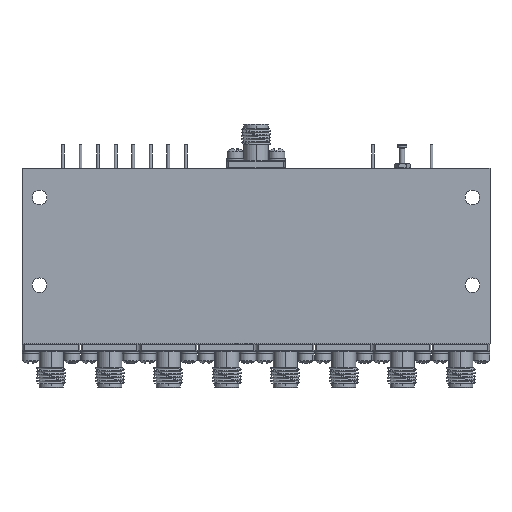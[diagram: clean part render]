
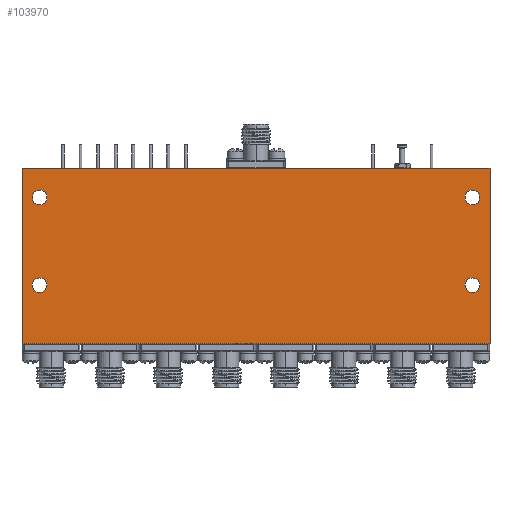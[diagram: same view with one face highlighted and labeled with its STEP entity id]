
A CAD part, front view. The second image highlights one B-rep face of the part: STEP entity #103970.
In plain terms, the highlighted planar face has unit normal (0, -1, 0).
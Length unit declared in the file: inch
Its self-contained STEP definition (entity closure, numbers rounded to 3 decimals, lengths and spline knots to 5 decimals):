
#84 = CARTESIAN_POINT ( 'NONE',  ( 1.85, -0.4, 0.5625 ) ) ;
#2089 = EDGE_LOOP ( 'NONE', ( #83933, #24301 ) ) ;
#2993 = CARTESIAN_POINT ( 'NONE',  ( 1.85, -0.4, 0.5 ) ) ;
#3558 = EDGE_CURVE ( 'NONE', #79604, #22856, #48123, .T. ) ;
#3781 = CARTESIAN_POINT ( 'NONE',  ( 1.85, -0.4, 0.5 ) ) ;
#5916 = CARTESIAN_POINT ( 'NONE',  ( -1.85, -0.4, -0.25 ) ) ;
#5926 = CARTESIAN_POINT ( 'NONE',  ( -2., -0.4, -0.75 ) ) ;
#6903 = EDGE_CURVE ( 'NONE', #90345, #19515, #58654, .T. ) ;
#6947 = VERTEX_POINT ( 'NONE', #38747 ) ;
#10412 = EDGE_CURVE ( 'NONE', #73036, #129658, #29117, .T. ) ;
#10731 = EDGE_LOOP ( 'NONE', ( #43509, #44098, #98233, #60220 ) ) ;
#14600 = CARTESIAN_POINT ( 'NONE',  ( -1.85, -0.4, 0.5 ) ) ;
#14979 = CARTESIAN_POINT ( 'NONE',  ( 1.85, -0.4, -0.25 ) ) ;
#16177 = PLANE ( 'NONE',  #42972 ) ;
#17691 = VERTEX_POINT ( 'NONE', #67533 ) ;
#19515 = VERTEX_POINT ( 'NONE', #74724 ) ;
#21190 = CARTESIAN_POINT ( 'NONE',  ( -1.85, -0.4, 0.5 ) ) ;
#22150 = DIRECTION ( 'NONE',  ( 0., 0., -1. ) ) ;
#22419 = VERTEX_POINT ( 'NONE', #107816 ) ;
#22856 = VERTEX_POINT ( 'NONE', #79773 ) ;
#22982 = AXIS2_PLACEMENT_3D ( 'NONE', #5916, #116943, #96325 ) ;
#24301 = ORIENTED_EDGE ( 'NONE', *, *, #54626, .T. ) ;
#26179 = FACE_BOUND ( 'NONE', #77400, .T. ) ;
#27717 = CARTESIAN_POINT ( 'NONE',  ( -2., -0.4, -0.75 ) ) ;
#27892 = CARTESIAN_POINT ( 'NONE',  ( -2., -0.4, 0.75 ) ) ;
#27914 = AXIS2_PLACEMENT_3D ( 'NONE', #3781, #43112, #82305 ) ;
#29117 = CIRCLE ( 'NONE', #103375, 0.0625 ) ;
#29593 = EDGE_CURVE ( 'NONE', #42709, #54280, #66148, .T. ) ;
#31895 = ORIENTED_EDGE ( 'NONE', *, *, #106462, .T. ) ;
#38747 = CARTESIAN_POINT ( 'NONE',  ( -1.85, -0.4, -0.3125 ) ) ;
#39189 = DIRECTION ( 'NONE',  ( 1., 0., 0. ) ) ;
#39213 = DIRECTION ( 'NONE',  ( 0., 1., 0. ) ) ;
#40738 = DIRECTION ( 'NONE',  ( 0., 0., 1. ) ) ;
#41946 = CIRCLE ( 'NONE', #99136, 0.0625 ) ;
#42709 = VERTEX_POINT ( 'NONE', #81984 ) ;
#42972 = AXIS2_PLACEMENT_3D ( 'NONE', #121830, #101130, #129919 ) ;
#43112 = DIRECTION ( 'NONE',  ( 0., 1., 0. ) ) ;
#43276 = DIRECTION ( 'NONE',  ( 0., 0., 1. ) ) ;
#43509 = ORIENTED_EDGE ( 'NONE', *, *, #6903, .F. ) ;
#44098 = ORIENTED_EDGE ( 'NONE', *, *, #83173, .F. ) ;
#46698 = DIRECTION ( 'NONE',  ( 0., 0., 1. ) ) ;
#47523 = DIRECTION ( 'NONE',  ( 0., 1., 0. ) ) ;
#47654 = DIRECTION ( 'NONE',  ( -1., 0., 0. ) ) ;
#48123 = LINE ( 'NONE', #129296, #83214 ) ;
#49206 = CIRCLE ( 'NONE', #64017, 0.0625 ) ;
#52979 = AXIS2_PLACEMENT_3D ( 'NONE', #2993, #115281, #74146 ) ;
#54183 = AXIS2_PLACEMENT_3D ( 'NONE', #90318, #39213, #77313 ) ;
#54280 = VERTEX_POINT ( 'NONE', #84 ) ;
#54626 = EDGE_CURVE ( 'NONE', #129658, #73036, #49206, .T. ) ;
#55305 = CARTESIAN_POINT ( 'NONE',  ( 1.85, -0.4, -0.25 ) ) ;
#56946 = LINE ( 'NONE', #27717, #63286 ) ;
#58654 = LINE ( 'NONE', #121124, #122458 ) ;
#60220 = ORIENTED_EDGE ( 'NONE', *, *, #71506, .F. ) ;
#61705 = DIRECTION ( 'NONE',  ( 0., 1., 0. ) ) ;
#63137 = DIRECTION ( 'NONE',  ( 0., 1., 0. ) ) ;
#63286 = VECTOR ( 'NONE', #47654, 39.37008 ) ;
#63629 = FACE_BOUND ( 'NONE', #105874, .T. ) ;
#64017 = AXIS2_PLACEMENT_3D ( 'NONE', #21190, #61705, #102196 ) ;
#65774 = VECTOR ( 'NONE', #39189, 39.37008 ) ;
#66148 = CIRCLE ( 'NONE', #27914, 0.0625 ) ;
#67533 = CARTESIAN_POINT ( 'NONE',  ( -1.85, -0.4, -0.1875 ) ) ;
#68584 = CARTESIAN_POINT ( 'NONE',  ( -1.85, -0.4, 0.5625 ) ) ;
#69108 = CIRCLE ( 'NONE', #54183, 0.0625 ) ;
#71506 = EDGE_CURVE ( 'NONE', #19515, #79604, #120255, .T. ) ;
#73036 = VERTEX_POINT ( 'NONE', #68584 ) ;
#74146 = DIRECTION ( 'NONE',  ( 0., 0., 1. ) ) ;
#74224 = CARTESIAN_POINT ( 'NONE',  ( 1.85, -0.4, -0.1875 ) ) ;
#74724 = CARTESIAN_POINT ( 'NONE',  ( -2., -0.4, 0.75 ) ) ;
#77313 = DIRECTION ( 'NONE',  ( 0., 0., 1. ) ) ;
#77400 = EDGE_LOOP ( 'NONE', ( #123595, #115195 ) ) ;
#78220 = CIRCLE ( 'NONE', #22982, 0.0625 ) ;
#79604 = VERTEX_POINT ( 'NONE', #119433 ) ;
#79773 = CARTESIAN_POINT ( 'NONE',  ( 2., -0.4, -0.75 ) ) ;
#80927 = EDGE_CURVE ( 'NONE', #6947, #17691, #69108, .T. ) ;
#81984 = CARTESIAN_POINT ( 'NONE',  ( 1.85, -0.4, 0.4375 ) ) ;
#82305 = DIRECTION ( 'NONE',  ( 0., 0., 1. ) ) ;
#83173 = EDGE_CURVE ( 'NONE', #22856, #90345, #56946, .T. ) ;
#83214 = VECTOR ( 'NONE', #22150, 39.37008 ) ;
#83933 = ORIENTED_EDGE ( 'NONE', *, *, #10412, .T. ) ;
#84798 = EDGE_LOOP ( 'NONE', ( #31895, #126023 ) ) ;
#85983 = FACE_OUTER_BOUND ( 'NONE', #10731, .T. ) ;
#86524 = ORIENTED_EDGE ( 'NONE', *, *, #80927, .T. ) ;
#87316 = EDGE_CURVE ( 'NONE', #22419, #122129, #41946, .T. ) ;
#87932 = AXIS2_PLACEMENT_3D ( 'NONE', #14979, #47523, #128008 ) ;
#90318 = CARTESIAN_POINT ( 'NONE',  ( -1.85, -0.4, -0.25 ) ) ;
#90345 = VERTEX_POINT ( 'NONE', #5926 ) ;
#91827 = CARTESIAN_POINT ( 'NONE',  ( -1.85, -0.4, 0.4375 ) ) ;
#96325 = DIRECTION ( 'NONE',  ( 0., 0., 1. ) ) ;
#96508 = DIRECTION ( 'NONE',  ( 0., 1., 0. ) ) ;
#98233 = ORIENTED_EDGE ( 'NONE', *, *, #3558, .F. ) ;
#99136 = AXIS2_PLACEMENT_3D ( 'NONE', #55305, #96508, #46698 ) ;
#99705 = ORIENTED_EDGE ( 'NONE', *, *, #120078, .T. ) ;
#101130 = DIRECTION ( 'NONE',  ( 0., 1., 0. ) ) ;
#101648 = CIRCLE ( 'NONE', #52979, 0.0625 ) ;
#102196 = DIRECTION ( 'NONE',  ( 0., 0., 1. ) ) ;
#102709 = CIRCLE ( 'NONE', #87932, 0.0625 ) ;
#103375 = AXIS2_PLACEMENT_3D ( 'NONE', #14600, #63137, #43276 ) ;
#103970 = ADVANCED_FACE ( 'NONE', ( #63629, #107908, #26179, #107237, #85983 ), #16177, .F. ) ;
#105874 = EDGE_LOOP ( 'NONE', ( #99705, #86524 ) ) ;
#106462 = EDGE_CURVE ( 'NONE', #122129, #22419, #102709, .T. ) ;
#107237 = FACE_BOUND ( 'NONE', #2089, .T. ) ;
#107816 = CARTESIAN_POINT ( 'NONE',  ( 1.85, -0.4, -0.3125 ) ) ;
#107908 = FACE_BOUND ( 'NONE', #84798, .T. ) ;
#115195 = ORIENTED_EDGE ( 'NONE', *, *, #29593, .T. ) ;
#115281 = DIRECTION ( 'NONE',  ( 0., 1., 0. ) ) ;
#116943 = DIRECTION ( 'NONE',  ( 0., 1., 0. ) ) ;
#119433 = CARTESIAN_POINT ( 'NONE',  ( 2., -0.4, 0.75 ) ) ;
#119789 = EDGE_CURVE ( 'NONE', #54280, #42709, #101648, .T. ) ;
#120078 = EDGE_CURVE ( 'NONE', #17691, #6947, #78220, .T. ) ;
#120255 = LINE ( 'NONE', #27892, #65774 ) ;
#121124 = CARTESIAN_POINT ( 'NONE',  ( -2., -0.4, -0.75 ) ) ;
#121830 = CARTESIAN_POINT ( 'NONE',  ( 0., -0.4, 0. ) ) ;
#122129 = VERTEX_POINT ( 'NONE', #74224 ) ;
#122458 = VECTOR ( 'NONE', #40738, 39.37008 ) ;
#123595 = ORIENTED_EDGE ( 'NONE', *, *, #119789, .T. ) ;
#126023 = ORIENTED_EDGE ( 'NONE', *, *, #87316, .T. ) ;
#128008 = DIRECTION ( 'NONE',  ( 0., 0., 1. ) ) ;
#129296 = CARTESIAN_POINT ( 'NONE',  ( 2., -0.4, -0.75 ) ) ;
#129658 = VERTEX_POINT ( 'NONE', #91827 ) ;
#129919 = DIRECTION ( 'NONE',  ( 0., 0., 1. ) ) ;
